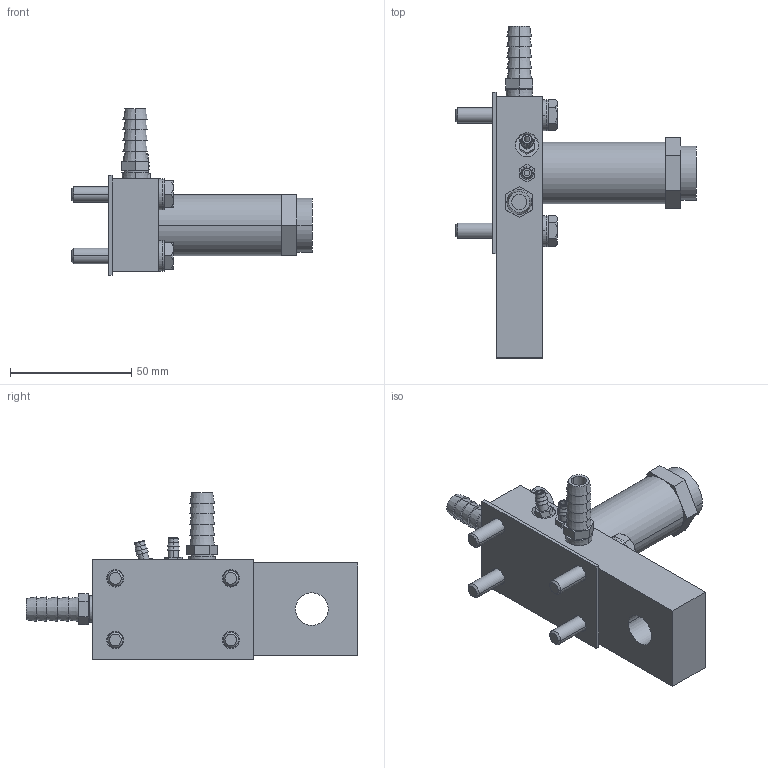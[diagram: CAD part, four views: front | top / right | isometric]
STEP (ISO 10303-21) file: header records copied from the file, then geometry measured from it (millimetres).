
FILE_DESCRIPTION((''),'2;1');
FILE_NAME('XHR2_ASM','2017-08-24T',('jennifer.elliott'),('CenterLine (Windsor) Ltd - Automation Components Division'),'PRO/ENGINEER BY PARAMETRIC TECHNOLOGY CORPORATION, 2015030','PRO/ENGINEER BY PARAMETRIC TECHNOLOGY CORPORATION, 2015030','');
FILE_SCHEMA(('AUTOMOTIVE_DESIGN { 1 0 10303 214 1 1 1 1 }'));
Length unit declared in the file: inch
Products named in the file (22): PRT1201; PRT1202; PRT1203; PRT1204; PRT1205; PRT1206; PRT1207; PRT1208; PRT1209; PRT1210; PRT1211; PRT1212; PRT1213; PRT1214; PRT1215; PRT1216; PRT1217; PRT1218; PRT1219; PRT1220; PRT1221; XHR2_ASM
Assembly tree (21 placements, depth 2):
  XHR2_ASM
    PRT1201
    PRT1202
    PRT1203
    PRT1204
    PRT1205
    PRT1206
    PRT1207
    PRT1208
    PRT1209
    PRT1210
    PRT1211
    PRT1212
    PRT1213
    PRT1214
    PRT1215
    PRT1216
    PRT1217
    PRT1218
    PRT1219
    PRT1220
    PRT1221
Bounding box: 99.25 x 136.91 x 68.64 mm (x, y, z)
Volume: 117714.9 mm3; surface area: 42498.4 mm2
Topology: 21 solids, 21 shells, 300 faces, 642 edges, 414 vertices
Faces by surface type: plane 134, cylinder 94, cone 64, torus 8
Entity records: 9858 total; most frequent: CARTESIAN_POINT 1762, DIRECTION 1572, ORIENTED_EDGE 1284, EDGE_CURVE 642, AXIS2_PLACEMENT_3D 639, VERTEX_POINT 414, EDGE_LOOP 372, FACE_OUTER_BOUND 300
